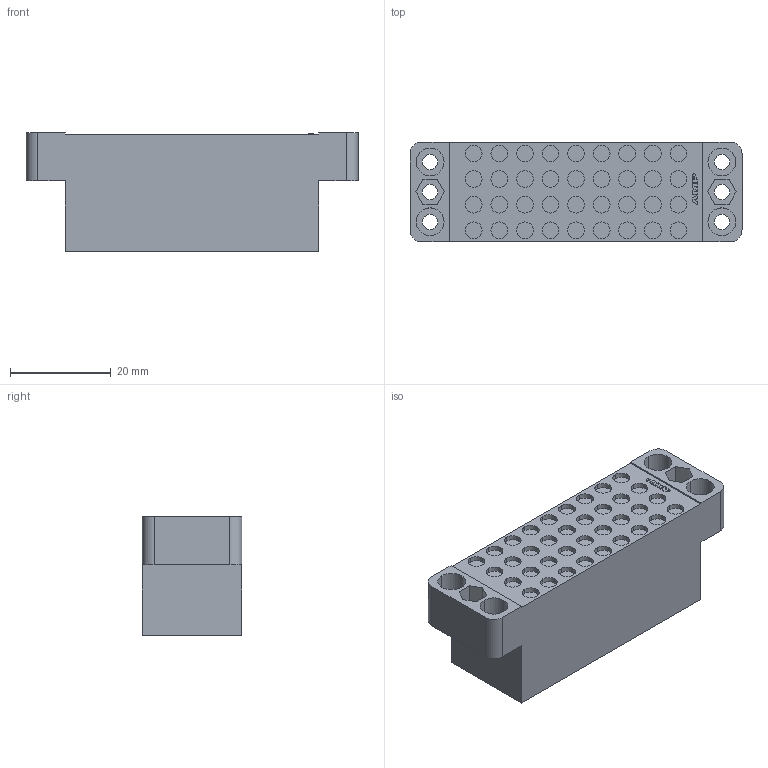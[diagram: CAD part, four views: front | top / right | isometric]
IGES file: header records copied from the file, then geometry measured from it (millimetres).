
Start section:  PTC IGES file: c-203956-2-f-3d.igs
Global section: file name: c-203956-2-f-3d.igs; native system: Pro/ENGINEER by Parametric Technology Corporation; preprocessor: 2005450; author: workeradm; organization: Unknown; date: 071227.133452; units: millimetre
Bounding box: 65.91 x 19.81 x 23.52 mm (x, y, z)
Surface area: 7673.3 mm2 (no closed solid volume)
Topology: 0 solids, 0 shells, 312 faces, 1362 edges, 1362 vertices
Faces by surface type: revolution 169, bspline 141, extrusion 2
